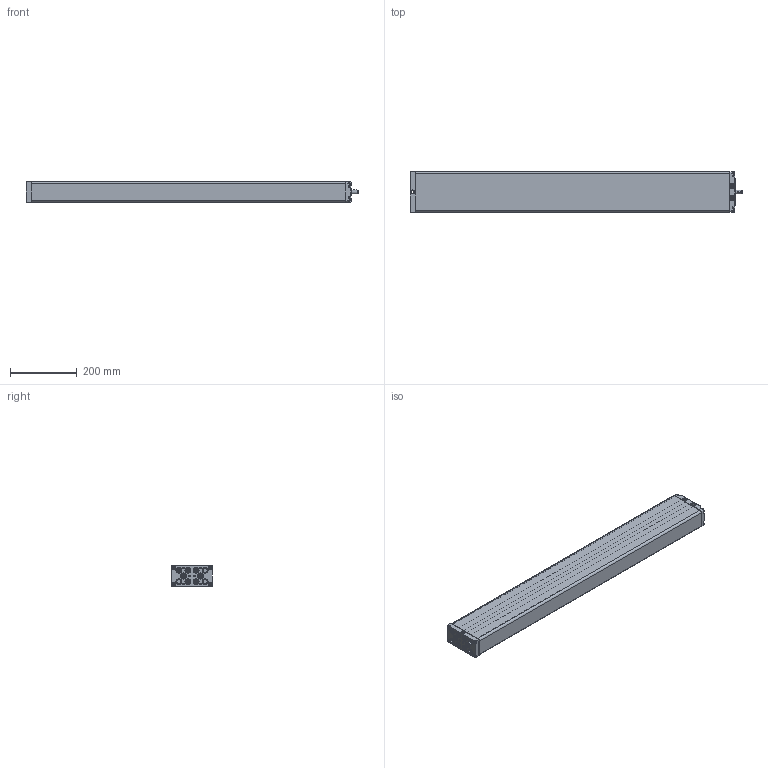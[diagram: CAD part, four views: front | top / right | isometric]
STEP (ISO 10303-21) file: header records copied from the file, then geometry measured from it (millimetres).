
FILE_DESCRIPTION(/* description */ ('Unknown'),/* implementation_level */ '2;1');
FILE_NAME(/* name */ '102.20267 Pumpe PB 7870 W',/* time_stamp */ '2016-11-25T11:13:54+01:00',/* author */ ('Unknown'),/* organization */ ('Unknown'),/* preprocessor_version */ 'ST-DEVELOPER v16.7',/* originating_system */ 'DEX',/* authorisation */ $);
FILE_SCHEMA (('AUTOMOTIVE_DESIGN {1 0 10303 214 3 1 1}'));
Products named in the file (16): 102.00267; 115.10039; 125.00061; 115.00008; 142.00021; 125.00021; 142.00013; 125.00149; 115.00140; 126.00006; 122.00040; 119.00040; 126.00036; 142.00057; 142.00083; 142.00017
Assembly tree (32 placements, depth 3):
  102.00267
    115.10039  x7
      125.00061
      115.00008
      142.00021
      125.00021
    142.00013  x8
    125.00149
    115.00140
      126.00006
      122.00040
    119.00040
    126.00036
    142.00057
    142.00083  x4
    142.00017  x2
Bounding box: 991.5 x 120 x 60.3 mm (x, y, z)
Volume: 1161078.6 mm3; surface area: 810986.1 mm2
Topology: 41 solids, 41 shells, 2099 faces, 4781 edges, 2789 vertices
Faces by surface type: plane 739, cylinder 476, bspline 377, cone 342, torus 108, sphere 57
Full cylindrical faces by diameter (mm): 3.5 x7, 4.1 x7, 4.134 x4, 4.2 x7, 4.917 x2, 5 x12, 5.8 x4, 6 x2, 6.8 x1, 6.917 x14, 8 x15, 8.5 x4, 9.8 x8, 10 x5, 10.4 x1, 10.5 x4, 12.5 x7, 13 x24, 14 x1, 14.4 x7, 17.9 x14, 18 x11, 19 x1
Entity records: 60391 total; most frequent: CARTESIAN_POINT 28876, ORIENTED_EDGE 5076, DIRECTION 4433, EDGE_CURVE 2538, AXIS2_PLACEMENT_3D 1720, VERTEX_POINT 1603, FACE_BOUND 1413, EDGE_LOOP 1412
